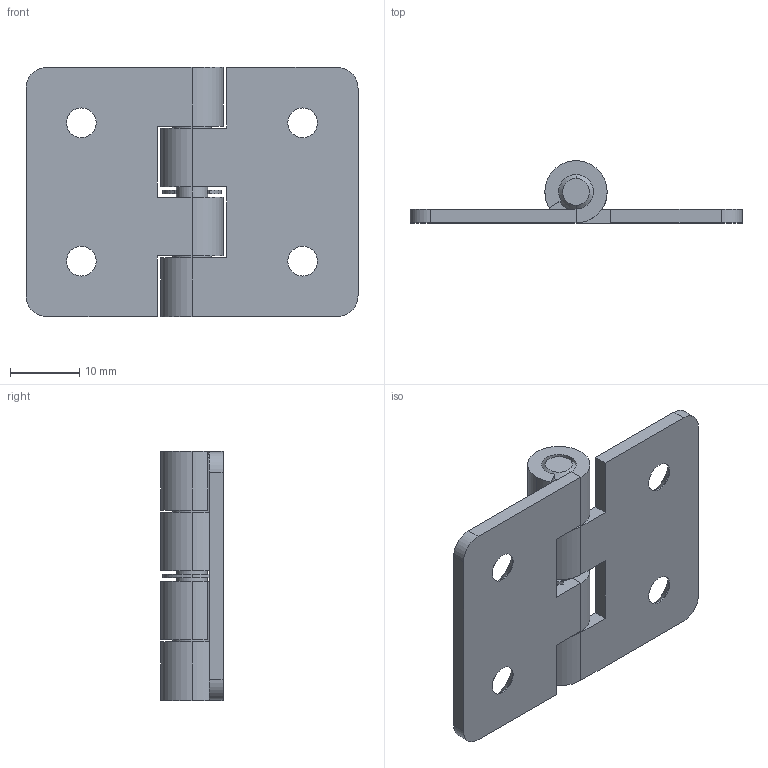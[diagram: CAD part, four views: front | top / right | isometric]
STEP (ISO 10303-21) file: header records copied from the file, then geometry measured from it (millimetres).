
FILE_DESCRIPTION (( 'STEP AP214' ), '1' );
FILE_NAME ('SK2-028-2.STEP', '2020-04-15T06:15:30', ( 'admin' ), ( 'Microsoft' ), 'SwSTEP 2.0', 'SolidWorks 2018', '' );
FILE_SCHEMA (( 'AUTOMOTIVE_DESIGN' ));
Length unit declared in the file: millimetre
Products named in the file (4): 2-028-2-F3; 2-028-2-F2; 2-028-2-F1; SK2-028-2
Assembly tree (4 placements, depth 2):
  SK2-028-2
    2-028-2-F1  x2
    2-028-2-F2
    2-028-2-F3
Bounding box: 48 x 9 x 36 mm (x, y, z)
Volume: 4921.9 mm3; surface area: 5800.5 mm2
Topology: 4 solids, 4 shells, 100 faces, 242 edges, 152 vertices
Faces by surface type: cylinder 48, plane 40, cone 12
Entity records: 1960 total; most frequent: DIRECTION 352, CARTESIAN_POINT 307, ORIENTED_EDGE 292, EDGE_CURVE 146, AXIS2_PLACEMENT_3D 137, VERTEX_POINT 92, VECTOR 78, LINE 78
